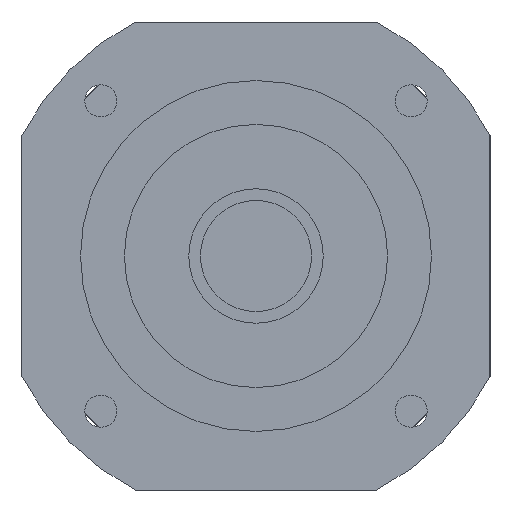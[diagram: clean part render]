
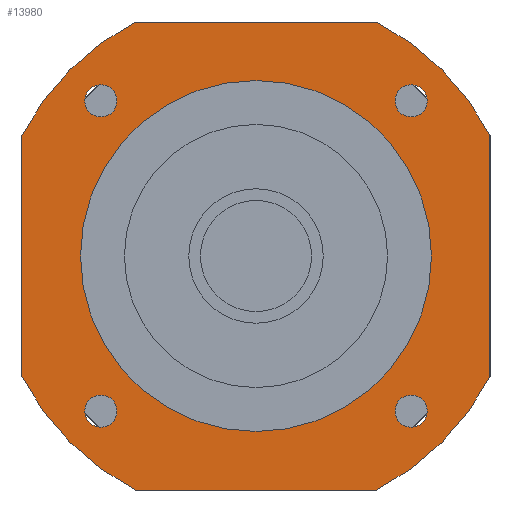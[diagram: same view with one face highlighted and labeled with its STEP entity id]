
A CAD part, left-side view. The second image highlights one B-rep face of the part: STEP entity #13980.
In plain terms, the highlighted planar face has unit normal (-1, 0, 0) as drawn and (0, 0, -1) by its records, which use the part's own axes.
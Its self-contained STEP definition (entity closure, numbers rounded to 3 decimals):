
#8870=CARTESIAN_POINT('',(-20.616,-40.,-42.2));
#8880=VERTEX_POINT('',#8870);
#8930=CARTESIAN_POINT('',(0.,0.,
-42.2));
#8940=DIRECTION('',(0.,0.,-1.));
#8950=DIRECTION('',(1.,0.,0.));
#8960=AXIS2_PLACEMENT_3D('',#8930,#8940,#8950);
#8970=CIRCLE('',#8960,45.);
#8980=CARTESIAN_POINT('',(-40.,-20.616,-42.2));
#8990=VERTEX_POINT('',#8980);
#9000=EDGE_CURVE('',#8880,#8990,#8970,.T.);
#9290=CARTESIAN_POINT('',(40.,-20.616,-42.2));
#9300=VERTEX_POINT('',#9290);
#9350=CARTESIAN_POINT('',(0.,0.,
-42.2));
#9360=DIRECTION('',(0.,0.,-1.));
#9370=DIRECTION('',(1.,0.,0.));
#9380=AXIS2_PLACEMENT_3D('',#9350,#9360,#9370);
#9390=CIRCLE('',#9380,45.);
#9400=CARTESIAN_POINT('',(20.616,-40.,-42.2));
#9410=VERTEX_POINT('',#9400);
#9420=EDGE_CURVE('',#9300,#9410,#9390,.T.);
#12510=CARTESIAN_POINT('',(23.767,-26.517,-42.2));
#12520=VERTEX_POINT('',#12510);
#12550=CARTESIAN_POINT('',(26.517,-26.517,-42.2));
#12560=DIRECTION('',(0.,0.,-1.));
#12570=DIRECTION('',(1.,0.,0.));
#12580=AXIS2_PLACEMENT_3D('',#12550,#12560,#12570);
#12590=CIRCLE('',#12580,2.75);
#12600=CARTESIAN_POINT('',(29.267,-26.517,-42.2));
#12610=VERTEX_POINT('',#12600);
#12620=EDGE_CURVE('',#12610,#12520,#12590,.T.);
#12740=CARTESIAN_POINT('',(40.,40.,-42.2));
#12750=DIRECTION('',(0.,0.,-1.));
#12760=DIRECTION('',(1.,0.,0.));
#12770=AXIS2_PLACEMENT_3D('',#12740,#12750,#12760);
#12780=PLANE('',#12770);
#12790=CARTESIAN_POINT('',(-26.517,-26.517,-42.2));
#12800=DIRECTION('',(0.,0.,-1.));
#12810=DIRECTION('',(0.,-1.,0.));
#12820=AXIS2_PLACEMENT_3D('',#12790,#12800,#12810);
#12830=CIRCLE('',#12820,2.75);
#12840=CARTESIAN_POINT('',(-26.517,-29.267,-42.2));
#12850=VERTEX_POINT('',#12840);
#12860=CARTESIAN_POINT('',(-26.517,-23.767,-42.2));
#12870=VERTEX_POINT('',#12860);
#12880=EDGE_CURVE('',#12850,#12870,#12830,.T.);
#12890=ORIENTED_EDGE('',*,*,#12880,.F.);
#12900=EDGE_CURVE('',#12870,#12850,#12830,.T.);
#12910=ORIENTED_EDGE('',*,*,#12900,.F.);
#12920=EDGE_LOOP('',(#12910,#12890));
#12930=FACE_BOUND('',#12920,.T.);
#12940=CARTESIAN_POINT('',(-26.517,26.517,-42.2));
#12950=DIRECTION('',(0.,0.,-1.));
#12960=DIRECTION('',(-1.,0.,0.));
#12970=AXIS2_PLACEMENT_3D('',#12940,#12950,#12960);
#12980=CIRCLE('',#12970,2.75);
#12990=CARTESIAN_POINT('',(-29.267,26.517,-42.2));
#13000=VERTEX_POINT('',#12990);
#13010=CARTESIAN_POINT('',(-23.767,26.517,-42.2));
#13020=VERTEX_POINT('',#13010);
#13030=EDGE_CURVE('',#13000,#13020,#12980,.T.);
#13040=ORIENTED_EDGE('',*,*,#13030,.F.);
#13050=EDGE_CURVE('',#13020,#13000,#12980,.T.);
#13060=ORIENTED_EDGE('',*,*,#13050,.F.);
#13070=EDGE_LOOP('',(#13060,#13040));
#13080=FACE_BOUND('',#13070,.T.);
#13090=CARTESIAN_POINT('',(26.517,26.517,-42.2));
#13100=DIRECTION('',(0.,0.,-1.));
#13110=DIRECTION('',(0.,1.,0.));
#13120=AXIS2_PLACEMENT_3D('',#13090,#13100,#13110);
#13130=CIRCLE('',#13120,2.75);
#13140=CARTESIAN_POINT('',(26.517,29.267,-42.2));
#13150=VERTEX_POINT('',#13140);
#13160=CARTESIAN_POINT('',(26.517,23.767,-42.2));
#13170=VERTEX_POINT('',#13160);
#13180=EDGE_CURVE('',#13150,#13170,#13130,.T.);
#13190=ORIENTED_EDGE('',*,*,#13180,.F.);
#13200=EDGE_CURVE('',#13170,#13150,#13130,.T.);
#13210=ORIENTED_EDGE('',*,*,#13200,.F.);
#13220=EDGE_LOOP('',(#13210,#13190));
#13230=FACE_BOUND('',#13220,.T.);
#13240=CARTESIAN_POINT('',(0.,0.,
-42.2));
#13250=DIRECTION('',(0.,0.,1.));
#13260=DIRECTION('',(0.,1.,0.));
#13270=AXIS2_PLACEMENT_3D('',#13240,#13250,#13260);
#13280=CIRCLE('',#13270,30.);
#13290=CARTESIAN_POINT('',(-30.,0.,-42.2));
#13300=VERTEX_POINT('',#13290);
#13310=CARTESIAN_POINT('',(30.,0.,-42.2));
#13320=VERTEX_POINT('',#13310);
#13330=EDGE_CURVE('',#13300,#13320,#13280,.T.);
#13340=ORIENTED_EDGE('',*,*,#13330,.T.);
#13350=CARTESIAN_POINT('',(0.,30.,-42.2));
#13360=VERTEX_POINT('',#13350);
#13370=EDGE_CURVE('',#13360,#13300,#13280,.T.);
#13380=ORIENTED_EDGE('',*,*,#13370,.T.);
#13390=EDGE_CURVE('',#13320,#13360,#13280,.T.);
#13400=ORIENTED_EDGE('',*,*,#13390,.T.);
#13410=EDGE_LOOP('',(#13400,#13380,#13340));
#13420=FACE_BOUND('',#13410,.T.);
#13430=CARTESIAN_POINT('',(-40.,40.,-42.2));
#13440=DIRECTION('',(1.,0.,0.));
#13450=VECTOR('',#13440,1000.);
#13460=LINE('',#13430,#13450);
#13470=CARTESIAN_POINT('',(-20.616,40.,-42.2));
#13480=VERTEX_POINT('',#13470);
#13490=CARTESIAN_POINT('',(20.616,40.,-42.2));
#13500=VERTEX_POINT('',#13490);
#13510=EDGE_CURVE('',#13480,#13500,#13460,.T.);
#13520=ORIENTED_EDGE('',*,*,#13510,.T.);
#13530=CARTESIAN_POINT('',(0.,0.,
-42.2));
#13540=DIRECTION('',(0.,0.,-1.));
#13550=DIRECTION('',(1.,0.,0.));
#13560=AXIS2_PLACEMENT_3D('',#13530,#13540,#13550);
#13570=CIRCLE('',#13560,45.);
#13580=CARTESIAN_POINT('',(-40.,20.616,-42.2));
#13590=VERTEX_POINT('',#13580);
#13600=EDGE_CURVE('',#13590,#13480,#13570,.T.);
#13610=ORIENTED_EDGE('',*,*,#13600,.T.);
#13620=CARTESIAN_POINT('',(-40.,-40.,-42.2));
#13630=DIRECTION('',(0.,1.,0.));
#13640=VECTOR('',#13630,1000.);
#13650=LINE('',#13620,#13640);
#13660=EDGE_CURVE('',#8990,#13590,#13650,.T.);
#13670=ORIENTED_EDGE('',*,*,#13660,.T.);
#13680=ORIENTED_EDGE('',*,*,#9000,.T.);
#13690=CARTESIAN_POINT('',(40.,-40.,-42.2));
#13700=DIRECTION('',(-1.,0.,0.));
#13710=VECTOR('',#13700,1000.);
#13720=LINE('',#13690,#13710);
#13730=EDGE_CURVE('',#9410,#8880,#13720,.T.);
#13740=ORIENTED_EDGE('',*,*,#13730,.T.);
#13750=ORIENTED_EDGE('',*,*,#9420,.T.);
#13760=CARTESIAN_POINT('',(40.,40.,-42.2));
#13770=DIRECTION('',(0.,-1.,0.));
#13780=VECTOR('',#13770,1000.);
#13790=LINE('',#13760,#13780);
#13800=CARTESIAN_POINT('',(40.,20.616,-42.2));
#13810=VERTEX_POINT('',#13800);
#13820=EDGE_CURVE('',#13810,#9300,#13790,.T.);
#13830=ORIENTED_EDGE('',*,*,#13820,.T.);
#13840=CARTESIAN_POINT('',(0.,0.,
-42.2));
#13850=DIRECTION('',(0.,0.,-1.));
#13860=DIRECTION('',(1.,0.,0.));
#13870=AXIS2_PLACEMENT_3D('',#13840,#13850,#13860);
#13880=CIRCLE('',#13870,45.);
#13890=EDGE_CURVE('',#13500,#13810,#13880,.T.);
#13900=ORIENTED_EDGE('',*,*,#13890,.T.);
#13910=EDGE_LOOP('',(#13900,#13830,#13750,#13740,#13680,#13670,#13610,
#13520));
#13920=FACE_OUTER_BOUND('',#13910,.T.);
#13930=ORIENTED_EDGE('',*,*,#12620,.F.);
#13940=EDGE_CURVE('',#12520,#12610,#12590,.T.);
#13950=ORIENTED_EDGE('',*,*,#13940,.F.);
#13960=EDGE_LOOP('',(#13950,#13930));
#13970=FACE_BOUND('',#13960,.T.);
#13980=ADVANCED_FACE('',(#12930,#13080,#13230,#13420,#13920,#13970),
#12780,.T.);
